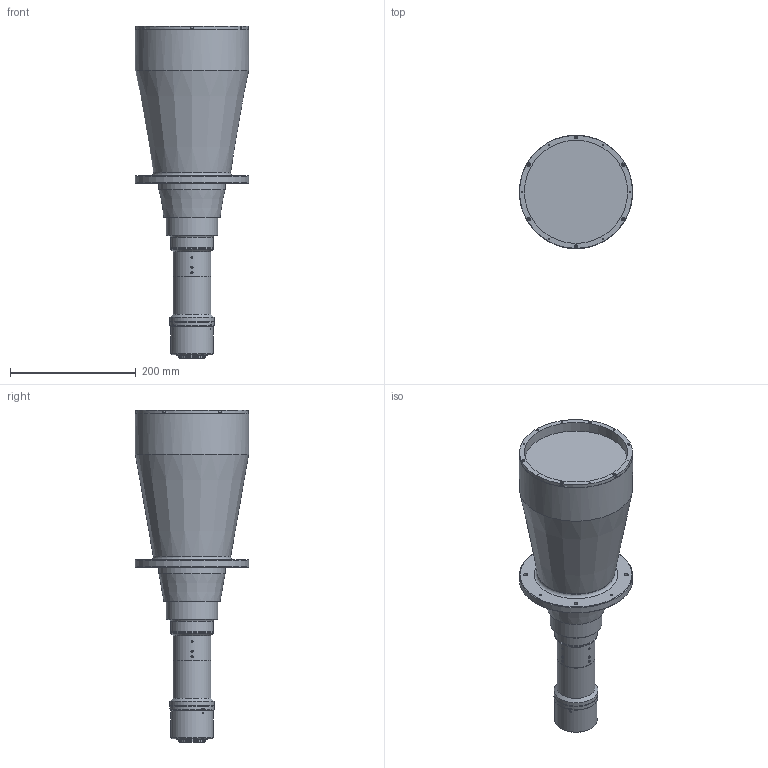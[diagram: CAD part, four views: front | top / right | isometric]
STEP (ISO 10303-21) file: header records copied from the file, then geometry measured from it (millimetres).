
FILE_DESCRIPTION (( 'STEP AP203' ), '1' );
FILE_NAME ('3d_mtl-15035p-023_a002.STEP', '2017-06-23T01:08:25', ( '' ), ( '' ), 'SwSTEP 2.0', 'SolidWorks 2014', '' );
FILE_SCHEMA (( 'CONFIG_CONTROL_DESIGN' ));
Length unit declared in the file: millimetre
Products named in the file (1): 3d_mtl-15035p-023_a002
Bounding box: 180 x 180 x 527.43 mm (x, y, z)
Volume: 5821085.6 mm3; surface area: 279725.4 mm2
Topology: 1 solids, 9 shells, 779 faces, 1790 edges, 1087 vertices
Faces by surface type: plane 478, cone 170, cylinder 92, torus 31, sphere 8
Full cylindrical faces by diameter (mm): 1.5 x6, 1.6 x4, 2.5 x3, 3.2 x4, 3.5 x8, 3.8 x3, 4.2 x4, 4.4 x6, 5.5 x4, 6 x4, 6.5 x4, 39 x1, 40.916 x1, 41.5 x1, 42 x1, 43 x1, 45 x1, 47 x1, 49 x1, 50 x1, 53 x1, 53.5 x1, 57.5 x1, 59 x1, 60 x2, 68 x3, 69.5 x1, 70 x2, 73 x1, 82 x1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
Entity records: 21071 total; most frequent: CARTESIAN_POINT 4546, DIRECTION 3566, ORIENTED_EDGE 3044, EDGE_CURVE 1522, AXIS2_PLACEMENT_3D 1427, EDGE_LOOP 1053, VERTEX_POINT 1007, FACE_OUTER_BOUND 895
